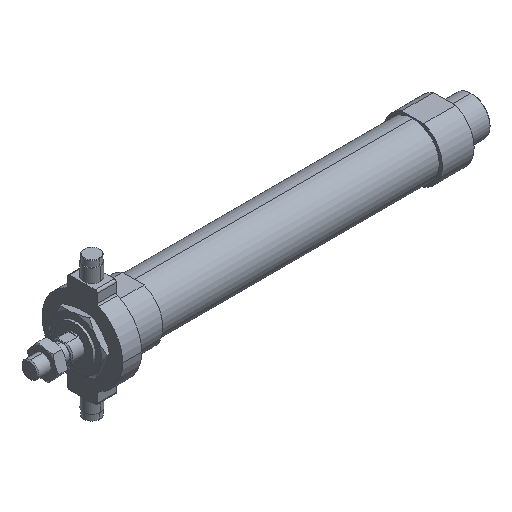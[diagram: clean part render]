
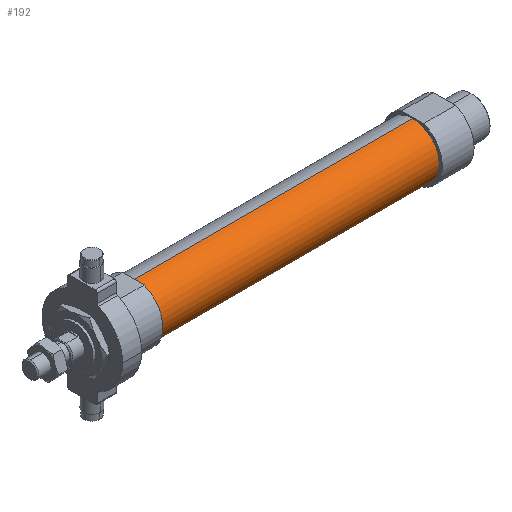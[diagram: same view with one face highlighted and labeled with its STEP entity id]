
A CAD part, isometric view. The second image highlights one B-rep face of the part: STEP entity #192.
In plain terms, the highlighted cylindrical face has radius 12.5 mm (diameter 25 mm), a partial arc.
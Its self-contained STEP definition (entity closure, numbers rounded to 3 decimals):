
#119 = AXIS2_PLACEMENT_3D ( 'NONE', #561, #2397, #1072 ) ;
#183 = DIRECTION ( 'NONE',  ( 0., 0., 1. ) ) ;
#192 = ADVANCED_FACE ( 'NONE', ( #3043 ), #2113, .T. ) ;
#502 = LINE ( 'NONE', #2223, #4359 ) ;
#561 = CARTESIAN_POINT ( 'NONE',  ( 49., 0., 0. ) ) ;
#622 = CARTESIAN_POINT ( 'NONE',  ( 181., 0., 12.5 ) ) ;
#795 = CARTESIAN_POINT ( 'NONE',  ( 181., 0., 0. ) ) ;
#831 = LINE ( 'NONE', #2104, #1682 ) ;
#1045 = CARTESIAN_POINT ( 'NONE',  ( -6.469, 0., 0. ) ) ;
#1065 = EDGE_CURVE ( 'NONE', #2209, #3423, #831, .T. ) ;
#1072 = DIRECTION ( 'NONE',  ( 0., 0., 1. ) ) ;
#1177 = DIRECTION ( 'NONE',  ( -1., 0., 0. ) ) ;
#1203 = ORIENTED_EDGE ( 'NONE', *, *, #2678, .T. ) ;
#1369 = DIRECTION ( 'NONE',  ( -1., 0., 0. ) ) ;
#1478 = VERTEX_POINT ( 'NONE', #622 ) ;
#1682 = VECTOR ( 'NONE', #4114, 1000. ) ;
#1747 = DIRECTION ( 'NONE',  ( 0., 0., 1. ) ) ;
#1945 = EDGE_CURVE ( 'NONE', #3423, #2995, #3489, .T. ) ;
#1950 = ORIENTED_EDGE ( 'NONE', *, *, #1065, .F. ) ;
#2104 = CARTESIAN_POINT ( 'NONE',  ( -6.469, 0., -12.5 ) ) ;
#2113 = CYLINDRICAL_SURFACE ( 'NONE', #3128, 12.5 ) ;
#2209 = VERTEX_POINT ( 'NONE', #4358 ) ;
#2223 = CARTESIAN_POINT ( 'NONE',  ( -6.469, 0., 12.5 ) ) ;
#2268 = AXIS2_PLACEMENT_3D ( 'NONE', #795, #1369, #183 ) ;
#2322 = ORIENTED_EDGE ( 'NONE', *, *, #3740, .T. ) ;
#2397 = DIRECTION ( 'NONE',  ( -1., 0., 0. ) ) ;
#2468 = ORIENTED_EDGE ( 'NONE', *, *, #1945, .F. ) ;
#2499 = DIRECTION ( 'NONE',  ( -1., 0., 0. ) ) ;
#2678 = EDGE_CURVE ( 'NONE', #1478, #2995, #502, .T. ) ;
#2925 = CARTESIAN_POINT ( 'NONE',  ( 49., 0., -12.5 ) ) ;
#2974 = EDGE_LOOP ( 'NONE', ( #1950, #2322, #1203, #2468 ) ) ;
#2995 = VERTEX_POINT ( 'NONE', #4081 ) ;
#3043 = FACE_OUTER_BOUND ( 'NONE', #2974, .T. ) ;
#3080 = CIRCLE ( 'NONE', #2268, 12.5 ) ;
#3128 = AXIS2_PLACEMENT_3D ( 'NONE', #1045, #1177, #1747 ) ;
#3423 = VERTEX_POINT ( 'NONE', #2925 ) ;
#3489 = CIRCLE ( 'NONE', #119, 12.5 ) ;
#3740 = EDGE_CURVE ( 'NONE', #2209, #1478, #3080, .T. ) ;
#4081 = CARTESIAN_POINT ( 'NONE',  ( 49., 0., 12.5 ) ) ;
#4114 = DIRECTION ( 'NONE',  ( -1., 0., 0. ) ) ;
#4358 = CARTESIAN_POINT ( 'NONE',  ( 181., 0., -12.5 ) ) ;
#4359 = VECTOR ( 'NONE', #2499, 1000. ) ;
